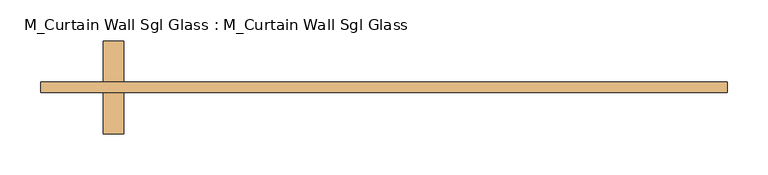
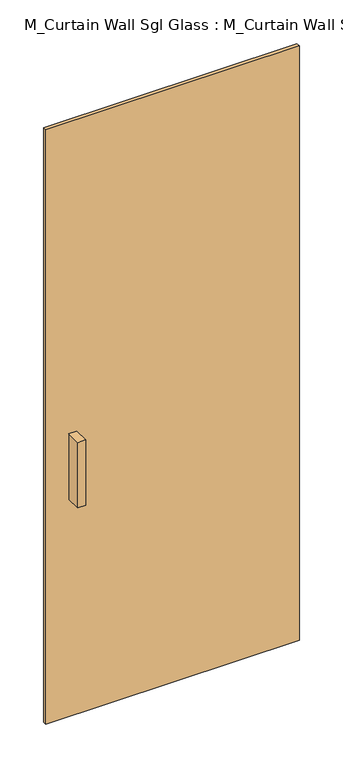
"""IFC4 building model written with IfcOpenShell, lengths in millimetres: door geometry, M_Curtain Wall Sgl Glass : M_Curtain Wall Sgl Glass."""

from ifc_helpers import new_model, si_unit, frame, origin, origin_with_axes, place, context, project, spatial, polyline, outline, extrude, source, transform, mapped, element, save


def m_curtain_wall_sgl_glass_m_curtain_wall_sgl_glass_44191cb6(model_context):
    return source(origin(), model_context, "Body", "SweptSolid", [
        extrude(outline(polyline([(-318.4, 63.5), (-318.4, 12.7), (-343.8, 12.7), (-343.8, 63.5), (-318.4, 63.5)])), frame((0.0, 0.0, 762.0), z_axis=(0.0, 0.0, 1.0), x_axis=(1.0, 0.0, 0.0)), (0.0, 0.0, 1.0), 228.6),
        extrude(outline(polyline([(-343.8, -50.8), (-343.8, 0.0), (-318.4, 0.0), (-318.4, -50.8), (-343.8, -50.8)])), frame((0.0, 0.0, 762.0), z_axis=(0.0, 0.0, 1.0), x_axis=(1.0, 0.0, 0.0)), (0.0, 0.0, 1.0), 228.6),
        extrude(outline(polyline([(420.0, 0.0), (-420.0, 0.0), (-420.0, 12.7), (420.0, 12.7), (420.0, 0.0)])), origin_with_axes(), (0.0, 0.0, 1.0), 2081.0),
    ])


if __name__ == "__main__":
    model = new_model("IFC4")
    model_context = context("Model", 3, world=origin())
    ifc_project = project(units=[si_unit("LENGTHUNIT", "METRE", prefix="MILLI")], contexts=[model_context])
    site = spatial("IfcSite", under=ifc_project)
    building = spatial("IfcBuilding", under=site)
    placement = place(None, origin())
    m_curtain_wall_sgl_glass_m_curtain_wall_sgl_glass_shape = m_curtain_wall_sgl_glass_m_curtain_wall_sgl_glass_44191cb6(model_context)
    element("IfcDoor", 1, ObjectType="M_Curtain Wall Sgl Glass : M_Curtain Wall Sgl Glass", at=placement, inside=building, context=model_context, shape_type="MappedRepresentation", body=[
        mapped(m_curtain_wall_sgl_glass_m_curtain_wall_sgl_glass_shape, transform((0.0, 0.0, 0.0), x_axis=(1.0, 0.0, 0.0), y_axis=(0.0, 1.0, 0.0), z_axis=(0.0, 0.0, 1.0))),
    ])
    save(model, "model.ifc")
